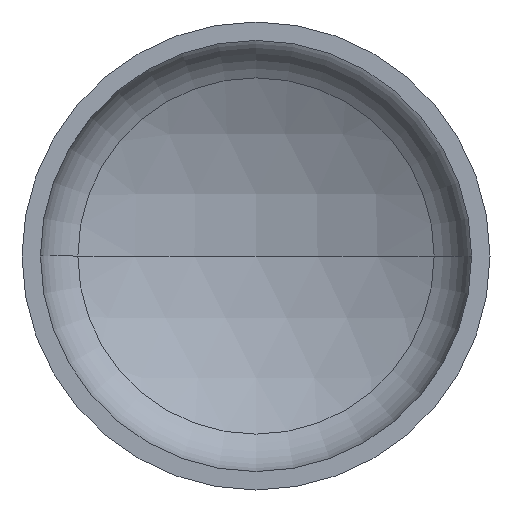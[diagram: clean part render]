
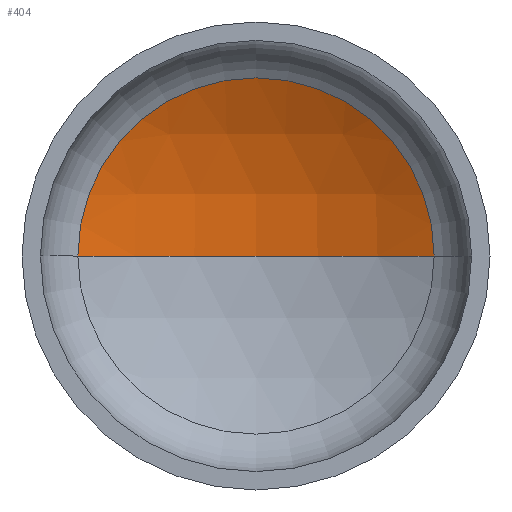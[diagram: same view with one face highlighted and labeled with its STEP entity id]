
A CAD part, front view. The second image highlights one B-rep face of the part: STEP entity #404.
In plain terms, the highlighted spherical face has radius 325 mm.
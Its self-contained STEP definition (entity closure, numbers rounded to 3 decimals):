
#16 = AXIS2_PLACEMENT_3D ( 'NONE', #263, #75, #289 ) ;
#17 = AXIS2_PLACEMENT_3D ( 'NONE', #363, #220, #389 ) ;
#18 = AXIS2_PLACEMENT_3D ( 'NONE', #123, #311, #171 ) ;
#25 = ORIENTED_EDGE ( 'NONE', *, *, #339, .T. ) ;
#42 = ORIENTED_EDGE ( 'NONE', *, *, #345, .F. ) ;
#53 = VERTEX_POINT ( 'NONE', #147 ) ;
#75 = DIRECTION ( 'NONE',  ( 0., 0., 1. ) ) ;
#114 = VERTEX_POINT ( 'NONE', #257 ) ;
#123 = CARTESIAN_POINT ( 'NONE',  ( 0., 109.524, 0. ) ) ;
#147 = CARTESIAN_POINT ( 'NONE',  ( -154.715, 109.524, 0. ) ) ;
#150 = EDGE_LOOP ( 'NONE', ( #42, #25, #160 ) ) ;
#160 = ORIENTED_EDGE ( 'NONE', *, *, #336, .T. ) ;
#171 = DIRECTION ( 'NONE',  ( 1., 0., 0. ) ) ;
#177 = VERTEX_POINT ( 'NONE', #403 ) ;
#178 = DIRECTION ( 'NONE',  ( 0., 0., -1. ) ) ;
#180 = CIRCLE ( 'NONE', #17, 325. ) ;
#192 = AXIS2_PLACEMENT_3D ( 'NONE', #246, #178, #342 ) ;
#219 = SPHERICAL_SURFACE ( 'NONE', #192, 325. ) ;
#220 = DIRECTION ( 'NONE',  ( 0., 0., -1. ) ) ;
#246 = CARTESIAN_POINT ( 'NONE',  ( 0., -176.288, 0. ) ) ;
#257 = CARTESIAN_POINT ( 'NONE',  ( 0., 148.712, 0. ) ) ;
#263 = CARTESIAN_POINT ( 'NONE',  ( 0., -176.288, 0. ) ) ;
#289 = DIRECTION ( 'NONE',  ( 1., 0., 0. ) ) ;
#300 = CIRCLE ( 'NONE', #18, 154.715 ) ;
#311 = DIRECTION ( 'NONE',  ( 0., -1., 0. ) ) ;
#335 = FACE_OUTER_BOUND ( 'NONE', #150, .T. ) ;
#336 = EDGE_CURVE ( 'NONE', #177, #53, #300, .T. ) ;
#339 = EDGE_CURVE ( 'NONE', #114, #177, #180, .T. ) ;
#342 = DIRECTION ( 'NONE',  ( -1., 0., 0. ) ) ;
#345 = EDGE_CURVE ( 'NONE', #114, #53, #362, .T. ) ;
#362 = CIRCLE ( 'NONE', #16, 325. ) ;
#363 = CARTESIAN_POINT ( 'NONE',  ( 0., -176.288, 0. ) ) ;
#389 = DIRECTION ( 'NONE',  ( -1., 0., 0. ) ) ;
#403 = CARTESIAN_POINT ( 'NONE',  ( 154.715, 109.524, 0. ) ) ;
#404 = ADVANCED_FACE ( 'NONE', ( #335 ), #219, .F. ) ;
